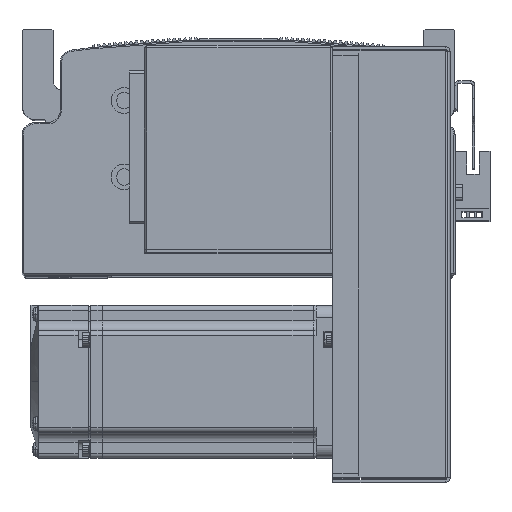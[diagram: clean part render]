
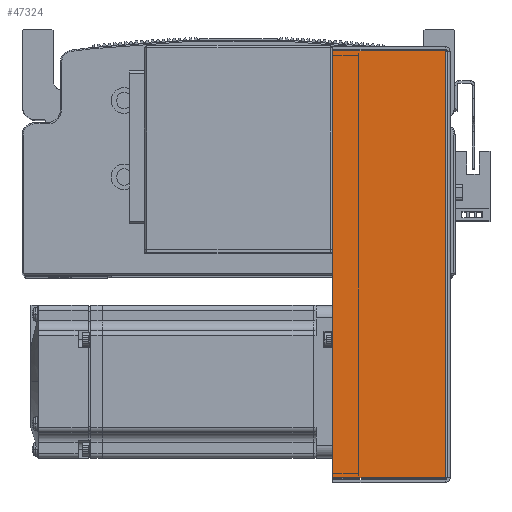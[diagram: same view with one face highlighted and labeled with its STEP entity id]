
A CAD part, top view. The second image highlights one B-rep face of the part: STEP entity #47324.
In plain terms, the highlighted planar face has unit normal (0, 0, 1) as drawn and (0, 0, -1) by its records, which use the part's own axes.
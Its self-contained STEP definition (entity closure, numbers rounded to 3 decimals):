
#190 = AXIS2_PLACEMENT_3D ( 'NONE', #34585, #34562, #34526 ) ;
#4187 = CARTESIAN_POINT ( 'NONE',  ( 84.5, 45., -40.5 ) ) ;
#4203 = DIRECTION ( 'NONE',  ( 1., 0., 0. ) ) ;
#4425 = DIRECTION ( 'NONE',  ( 0., 1., 0. ) ) ;
#4429 = DIRECTION ( 'NONE',  ( 1., 0., 0. ) ) ;
#4445 = CARTESIAN_POINT ( 'NONE',  ( 83.793, 0., -40.5 ) ) ;
#4464 = CARTESIAN_POINT ( 'NONE',  ( 0., 0.737, -40.5 ) ) ;
#5486 = LINE ( 'NONE', #4187, #5543 ) ;
#5519 = VECTOR ( 'NONE', #5730, 1000. ) ;
#5543 = VECTOR ( 'NONE', #4203, 1000. ) ;
#5559 = LINE ( 'NONE', #5736, #5519 ) ;
#5574 = VECTOR ( 'NONE', #4425, 1000. ) ;
#5629 = LINE ( 'NONE', #4445, #5574 ) ;
#5691 = VECTOR ( 'NONE', #4429, 1000. ) ;
#5725 = LINE ( 'NONE', #4464, #5691 ) ;
#5730 = DIRECTION ( 'NONE',  ( 0., 1., 0. ) ) ;
#5736 = CARTESIAN_POINT ( 'NONE',  ( -83.793, 0., -40.5 ) ) ;
#24808 = FACE_OUTER_BOUND ( 'NONE', #70285, .T. ) ;
#29338 = VERTEX_POINT ( 'NONE', #55037 ) ;
#29349 = VERTEX_POINT ( 'NONE', #55044 ) ;
#29424 = VERTEX_POINT ( 'NONE', #55268 ) ;
#29454 = VERTEX_POINT ( 'NONE', #55263 ) ;
#34526 = DIRECTION ( 'NONE',  ( 0., -1., 0. ) ) ;
#34561 = PLANE ( 'NONE',  #190 ) ;
#34562 = DIRECTION ( 'NONE',  ( 0., 0., 1. ) ) ;
#34585 = CARTESIAN_POINT ( 'NONE',  ( 0., 0., -40.5 ) ) ;
#47324 = ADVANCED_FACE ( 'NONE', ( #24808 ), #34561, .F. ) ;
#55037 = CARTESIAN_POINT ( 'NONE',  ( 83.793, 0.737, -40.5 ) ) ;
#55044 = CARTESIAN_POINT ( 'NONE',  ( -83.793, 45., -40.5 ) ) ;
#55263 = CARTESIAN_POINT ( 'NONE',  ( 83.793, 45., -40.5 ) ) ;
#55268 = CARTESIAN_POINT ( 'NONE',  ( -83.793, 0.737, -40.5 ) ) ;
#56903 = EDGE_CURVE ( 'NONE', #29424, #29349, #5559, .T. ) ;
#56913 = EDGE_CURVE ( 'NONE', #29349, #29454, #5486, .T. ) ;
#56945 = EDGE_CURVE ( 'NONE', #29338, #29454, #5629, .T. ) ;
#56954 = EDGE_CURVE ( 'NONE', #29424, #29338, #5725, .T. ) ;
#60357 = ORIENTED_EDGE ( 'NONE', *, *, #56954, .F. ) ;
#60432 = ORIENTED_EDGE ( 'NONE', *, *, #56903, .T. ) ;
#62012 = ORIENTED_EDGE ( 'NONE', *, *, #56913, .T. ) ;
#62137 = ORIENTED_EDGE ( 'NONE', *, *, #56945, .F. ) ;
#70285 = EDGE_LOOP ( 'NONE', ( #60357, #60432, #62012, #62137 ) ) ;
